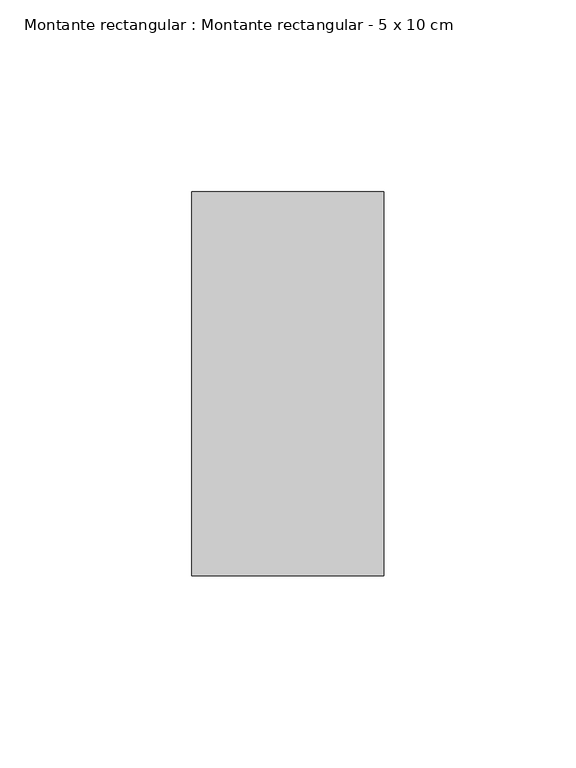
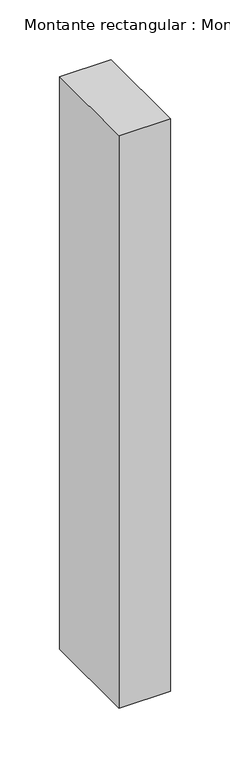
"""IFC4 building model written with IfcOpenShell, lengths in millimetres: member geometry, Montante rectangular : Montante rectangular - 5 x 10 cm."""

import ifcopenshell
import ifcopenshell.guid

model = None  # the IFC model being written
_history = None  # IfcOwnerHistory: only IFC2X3 demands one
_inside = {}  # id of a spatial element -> (the spatial element, [elements in it])
_under = {}  # id of a project, library or spatial element -> (it, [spatial elements below it])
_declared = {}  # id of a project -> (the project, [libraries it declares])
_typed = {}  # id of a type object -> (the type object, [elements of that type])
_made_of = {}  # id of a material, layer set ... -> (it, [elements and type objects made of it])


def new_model(schema):
    """Start an empty IFC model of exactly this schema.

    Asked for "IFC4X3", IfcOpenShell would pick the latest addendum, in which some entities
    have other attributes; the version numbers below select the first issue.
    IFC2X3 requires an IfcOwnerHistory on every rooted entity: one is made here for all.
    """
    global model, _history
    if schema == "IFC4X3":
        model = ifcopenshell.file(schema_version=(4, 3, 0, 0))
    else:
        model = ifcopenshell.file(schema=schema)
    _inside.clear()
    _under.clear()
    _declared.clear()
    _typed.clear()
    _made_of.clear()
    _history = None
    if model.schema == "IFC2X3":
        org = make("IfcOrganization", Name="unknown")
        user = make(
            "IfcPersonAndOrganization",
            ThePerson=make("IfcPerson", FamilyName="unknown"),
            TheOrganization=org,
        )
        app = make(
            "IfcApplication",
            ApplicationDeveloper=org,
            Version="unknown",
            ApplicationFullName="unknown",
            ApplicationIdentifier="unknown",
        )
        _history = make(
            "IfcOwnerHistory",
            OwningUser=user,
            OwningApplication=app,
            ChangeAction="ADDED",
            CreationDate=0,
        )
    return model


def make(cls, **values):
    """One entity of the class cls with the attributes given. An attribute that is None is left unset."""
    return model.create_entity(
        cls, **{name: value for name, value in values.items() if value is not None}
    )


def rooted(cls, **values):
    """An entity with a GlobalId (a new one), such as an element, a storey or a relation."""
    return make(cls, GlobalId=ifcopenshell.guid.new(), OwnerHistory=_history, **values)


def si_unit(unit_type, name, prefix=None):
    """IfcSIUnit, for example si_unit("LENGTHUNIT", "METRE", prefix="MILLI")."""
    return make("IfcSIUnit", UnitType=unit_type, Prefix=prefix, Name=name)


def assignment(units):
    """IfcUnitAssignment: the units of a project."""
    return None if units is None else make("IfcUnitAssignment", Units=units)


def point(xyz):
    """IfcCartesianPoint."""
    return None if xyz is None else make("IfcCartesianPoint", Coordinates=xyz)


def direction(xyz):
    """IfcDirection."""
    return None if xyz is None else make("IfcDirection", DirectionRatios=xyz)


def frame(location, z_axis=None, x_axis=None):
    """IfcAxis2Placement3D, a coordinate frame: its origin and axes. An axis left out is left unset."""
    return make(
        "IfcAxis2Placement3D",
        Location=point(location),
        Axis=direction(z_axis),
        RefDirection=direction(x_axis),
    )


def origin():
    """The frame at (0, 0, 0) with its axes left unset."""
    return frame((0.0, 0.0, 0.0))


def place(relative_to, where):
    """IfcLocalPlacement: puts the frame where relative to a parent placement (None: the world)."""
    return make(
        "IfcLocalPlacement", PlacementRelTo=relative_to, RelativePlacement=where
    )


def context(
    kind, dimensions, precision=None, world=None, true_north=None, identifier=None
):
    """IfcGeometricRepresentationContext, for example the 3D "Model" context."""
    return make(
        "IfcGeometricRepresentationContext",
        ContextIdentifier=identifier,
        ContextType=kind,
        CoordinateSpaceDimension=dimensions,
        Precision=precision,
        WorldCoordinateSystem=world,
        TrueNorth=true_north,
    )


def project(units=None, contexts=None):
    """IfcProject with its units and contexts."""
    return rooted(
        "IfcProject",
        Name="project",
        RepresentationContexts=contexts,
        UnitsInContext=assignment(units),
    )


def spatial(cls, under=None, at=None, **own):
    """A site, building, storey or space (cls), placed at a placement, below another one or the project."""
    s = rooted(cls, ObjectPlacement=at, **own)
    if under is not None:
        _under.setdefault(under.id(), (under, []))[1].append(s)
    return s


def polyline(points):
    """IfcPolyline through the points."""
    return make("IfcPolyline", Points=[point(p) for p in points])


def outline(outer, holes=None, kind="AREA"):
    """IfcArbitraryClosedProfileDef: a profile drawn as a closed curve; with holes, ...WithVoids."""
    if holes is None:
        return make("IfcArbitraryClosedProfileDef", ProfileType=kind, OuterCurve=outer)
    return make(
        "IfcArbitraryProfileDefWithVoids",
        ProfileType=kind,
        OuterCurve=outer,
        InnerCurves=holes,
    )


def extrude(swept, where, along, depth):
    """IfcExtrudedAreaSolid: the profile swept, set in the frame where, extruded along a direction by depth."""
    return make(
        "IfcExtrudedAreaSolid",
        SweptArea=swept,
        Position=where,
        ExtrudedDirection=direction(along),
        Depth=depth,
    )


def shape(context_of_items, identifier, shape_type, items):
    """IfcShapeRepresentation: the items that make up one representation, for example the "Body"."""
    return make(
        "IfcShapeRepresentation",
        ContextOfItems=context_of_items,
        RepresentationIdentifier=identifier,
        RepresentationType=shape_type,
        Items=items,
    )


def source(mapping_origin, context_of_items, identifier, shape_type, items):
    """IfcRepresentationMap: a shape defined once, which mapped items show again and again."""
    return make(
        "IfcRepresentationMap",
        MappingOrigin=mapping_origin,
        MappedRepresentation=shape(context_of_items, identifier, shape_type, items),
    )


def transform(
    local_origin,
    x_axis=None,
    y_axis=None,
    z_axis=None,
    scale=None,
    scale2=None,
    scale3=None,
    uniform=True,
):
    """IfcCartesianTransformationOperator3D, or its non-uniform kind. x_axis, y_axis, z_axis: its Axis1, 2, 3."""
    if uniform:
        return make(
            "IfcCartesianTransformationOperator3D",
            Axis1=direction(x_axis),
            Axis2=direction(y_axis),
            LocalOrigin=point(local_origin),
            Scale=scale,
            Axis3=direction(z_axis),
        )
    return make(
        "IfcCartesianTransformationOperator3DnonUniform",
        Axis1=direction(x_axis),
        Axis2=direction(y_axis),
        LocalOrigin=point(local_origin),
        Scale=scale,
        Axis3=direction(z_axis),
        Scale2=scale2,
        Scale3=scale3,
    )


def mapped(mapping_source, mapping_target):
    """IfcMappedItem: shows the shape of a source again, moved by a transform."""
    return make(
        "IfcMappedItem", MappingSource=mapping_source, MappingTarget=mapping_target
    )


def made_of(thing, what):
    """Note that an element or type object is made of a material, layer set ...; save() writes the relation."""
    if what is not None:
        _made_of.setdefault(what.id(), (what, []))[1].append(thing)
    return thing


def element(
    cls,
    number,
    at=None,
    inside=None,
    cuts=None,
    type_object=None,
    material=None,
    context=None,
    identifier="Body",
    shape_type=None,
    held_by="IfcProductDefinitionShape",
    body=None,
    shapes=None,
    **own,
):
    """One element of the class cls, such as IfcWall. Its Tag is "e" and its number.

    at: its placement. inside: the storey or other place that contains it. cuts: it is an
    opening in that element (IfcRelVoidsElement). A single representation is given by context,
    identifier, shape_type and body (its items); several are given by shapes. held_by: the class
    of the entity that holds the representations. save() writes the other relations.
    """
    e = rooted(cls, Tag="e%d" % number, ObjectPlacement=at, **own)
    if body is not None:
        shapes = [shape(context, identifier, shape_type, body)]
    if shapes is not None:
        e.Representation = make(held_by, Representations=shapes)
    if inside is not None:
        _inside.setdefault(inside.id(), (inside, []))[1].append(e)
    if cuts is not None:
        rooted(
            "IfcRelVoidsElement", RelatingBuildingElement=cuts, RelatedOpeningElement=e
        )
    if type_object is not None:
        _typed.setdefault(type_object.id(), (type_object, []))[1].append(e)
    return made_of(e, material)


def aggregate(whole, parts):
    """IfcRelAggregates: a whole, such as a stair, and the parts it consists of."""
    return rooted("IfcRelAggregates", RelatingObject=whole, RelatedObjects=parts)


def save(model, path):
    """Write the relations noted so far, then the file.

    IfcRelAggregates (storeys below a building ...), IfcRelContainedInSpatialStructure (elements
    in a storey), IfcRelDefinesByType, IfcRelAssociatesMaterial and IfcRelDeclares: one each for
    every whole, place, type object, material and project.
    """
    for whole, parts in _under.values():
        aggregate(whole, parts)
    for where, things in _inside.values():
        rooted(
            "IfcRelContainedInSpatialStructure",
            RelatedElements=things,
            RelatingStructure=where,
        )
    for kind, things in _typed.values():
        rooted("IfcRelDefinesByType", RelatedObjects=things, RelatingType=kind)
    for what, things in _made_of.values():
        rooted("IfcRelAssociatesMaterial", RelatedObjects=things, RelatingMaterial=what)
    for by, libraries in _declared.values():
        rooted("IfcRelDeclares", RelatingContext=by, RelatedDefinitions=libraries)
    model.write(path)


def montante_rectangular_montante_rectangular_5_x_10_cm_2b9f30a8(model_context):
    return source(origin(), model_context, "Body", "SweptSolid", [
        extrude(outline(polyline([(25.0, 50.0), (25.0, -50.0), (-25.0, -50.0), (-25.0, 50.0), (25.0, 50.0)])), frame((0.0, 0.0, -587.5), z_axis=(0.0, 0.0, 1.0), x_axis=(1.0, 0.0, 0.0)), (0.0, 0.0, 1.0), 587.5),
    ])


if __name__ == "__main__":
    model = new_model("IFC4")
    model_context = context("Model", 3, world=origin())
    ifc_project = project(units=[si_unit("LENGTHUNIT", "METRE", prefix="MILLI")], contexts=[model_context])
    site = spatial("IfcSite", under=ifc_project)
    building = spatial("IfcBuilding", under=site)
    placement = place(None, origin())
    montante_rectangular_montante_rectangular_5_x_10_cm_shape = montante_rectangular_montante_rectangular_5_x_10_cm_2b9f30a8(model_context)
    element("IfcMember", 1, ObjectType="Montante rectangular : Montante rectangular - 5 x 10 cm", at=placement, inside=building, context=model_context, shape_type="MappedRepresentation", body=[
        mapped(montante_rectangular_montante_rectangular_5_x_10_cm_shape, transform((0.0, 0.0, 0.0), x_axis=(1.0, 0.0, 0.0), y_axis=(0.0, 1.0, 0.0), z_axis=(0.0, 0.0, 1.0))),
    ])
    save(model, "model.ifc")
